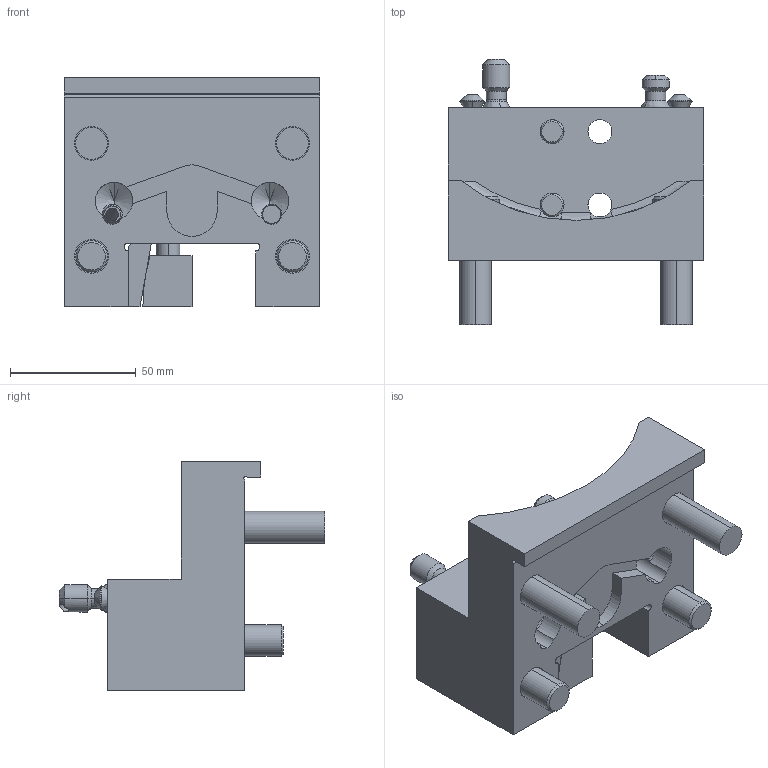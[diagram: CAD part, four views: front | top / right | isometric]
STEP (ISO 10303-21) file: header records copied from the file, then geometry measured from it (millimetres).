
FILE_DESCRIPTION (( 'STEP AP203' ), '1' );
FILE_NAME ('04-0762, BOT20OD-1.0.STEP', '2022-07-18T15:39:44', ( '' ), ( '' ), 'SwSTEP 2.0', 'SolidWorks 2021', '' );
FILE_SCHEMA (( 'CONFIG_CONTROL_DESIGN' ));
Length unit declared in the file: inch
Products named in the file (1): 04-0762, BOT20OD-1.0
Bounding box: 101.6 x 105.58 x 91.45 mm (x, y, z)
Surface area: 75072.5 mm2 (no closed solid volume)
Topology: 0 solids, 22 shells, 255 faces, 694 edges, 460 vertices
Faces by surface type: plane 116, cylinder 87, cone 37, bspline 15
Entity records: 10410 total; most frequent: CARTESIAN_POINT 3907, DIRECTION 1347, ORIENTED_EDGE 1274, EDGE_CURVE 686, AXIS2_PLACEMENT_3D 485, VERTEX_POINT 460, LINE 377, VECTOR 377
